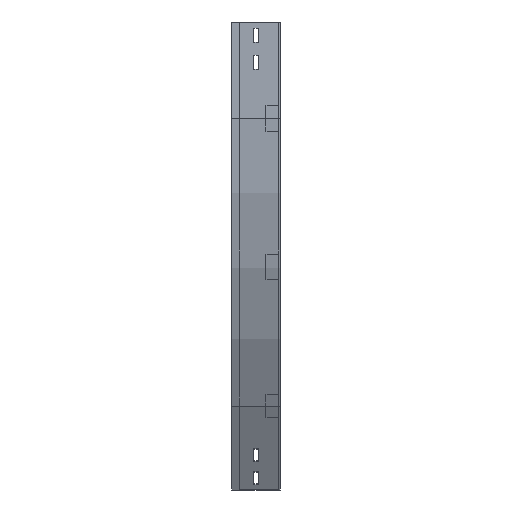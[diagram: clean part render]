
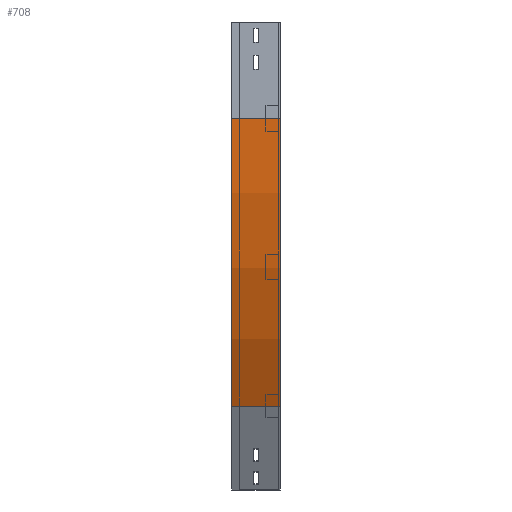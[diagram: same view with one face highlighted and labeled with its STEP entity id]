
A CAD part, left-side view. The second image highlights one B-rep face of the part: STEP entity #708.
In plain terms, the highlighted cylindrical face has radius 900 mm (diameter 1800 mm), a partial arc.
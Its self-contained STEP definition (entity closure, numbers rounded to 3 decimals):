
#24 = EDGE_CURVE ( 'NONE', #718, #2145, #1300, .T. ) ;
#42 = CIRCLE ( 'NONE', #954, 900. ) ;
#116 = DIRECTION ( 'NONE',  ( 0., 0., -1. ) ) ;
#448 = VECTOR ( 'NONE', #698, 1000. ) ;
#505 = ORIENTED_EDGE ( 'NONE', *, *, #1929, .F. ) ;
#616 = EDGE_CURVE ( 'NONE', #1996, #718, #3789, .T. ) ;
#698 = DIRECTION ( 'NONE',  ( 0., -1., 0. ) ) ;
#708 = ADVANCED_FACE ( 'NONE', ( #1647 ), #2830, .T. ) ;
#718 = VERTEX_POINT ( 'NONE', #1351 ) ;
#775 = DIRECTION ( 'NONE',  ( -1., 0., 0. ) ) ;
#912 = VERTEX_POINT ( 'NONE', #1370 ) ;
#954 = AXIS2_PLACEMENT_3D ( 'NONE', #3125, #2813, #2832 ) ;
#1008 = CARTESIAN_POINT ( 'NONE',  ( 0., 0., -150. ) ) ;
#1282 = CARTESIAN_POINT ( 'NONE',  ( 120.577, 0., -600. ) ) ;
#1300 = LINE ( 'NONE', #1282, #448 ) ;
#1351 = CARTESIAN_POINT ( 'NONE',  ( 120.577, 75., -600. ) ) ;
#1370 = CARTESIAN_POINT ( 'NONE',  ( 0., 0., -150. ) ) ;
#1439 = AXIS2_PLACEMENT_3D ( 'NONE', #2023, #3497, #775 ) ;
#1516 = ORIENTED_EDGE ( 'NONE', *, *, #24, .T. ) ;
#1647 = FACE_OUTER_BOUND ( 'NONE', #3514, .T. ) ;
#1660 = CARTESIAN_POINT ( 'NONE',  ( 120.577, 0., -600. ) ) ;
#1901 = ORIENTED_EDGE ( 'NONE', *, *, #2858, .F. ) ;
#1902 = CARTESIAN_POINT ( 'NONE',  ( 900., 0., -150. ) ) ;
#1926 = DIRECTION ( 'NONE',  ( 0., -1., 0. ) ) ;
#1929 = EDGE_CURVE ( 'NONE', #1996, #912, #2217, .T. ) ;
#1996 = VERTEX_POINT ( 'NONE', #3752 ) ;
#2023 = CARTESIAN_POINT ( 'NONE',  ( 900., 75., -150. ) ) ;
#2119 = VECTOR ( 'NONE', #1926, 1000. ) ;
#2125 = ORIENTED_EDGE ( 'NONE', *, *, #616, .T. ) ;
#2145 = VERTEX_POINT ( 'NONE', #1660 ) ;
#2217 = LINE ( 'NONE', #1008, #2119 ) ;
#2390 = AXIS2_PLACEMENT_3D ( 'NONE', #1902, #2789, #116 ) ;
#2789 = DIRECTION ( 'NONE',  ( 0., -1., 0. ) ) ;
#2813 = DIRECTION ( 'NONE',  ( 0., -1., 0. ) ) ;
#2830 = CYLINDRICAL_SURFACE ( 'NONE', #2390, 900. ) ;
#2832 = DIRECTION ( 'NONE',  ( -1., 0., 0. ) ) ;
#2858 = EDGE_CURVE ( 'NONE', #912, #2145, #42, .T. ) ;
#3125 = CARTESIAN_POINT ( 'NONE',  ( 900., 0., -150. ) ) ;
#3497 = DIRECTION ( 'NONE',  ( 0., -1., 0. ) ) ;
#3514 = EDGE_LOOP ( 'NONE', ( #1901, #505, #2125, #1516 ) ) ;
#3752 = CARTESIAN_POINT ( 'NONE',  ( 0., 75., -150. ) ) ;
#3789 = CIRCLE ( 'NONE', #1439, 900. ) ;
